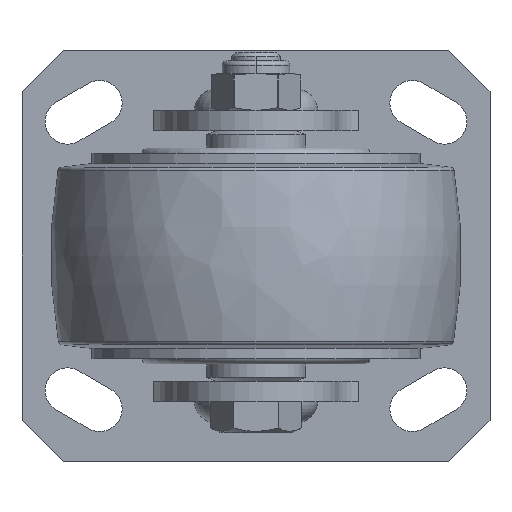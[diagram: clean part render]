
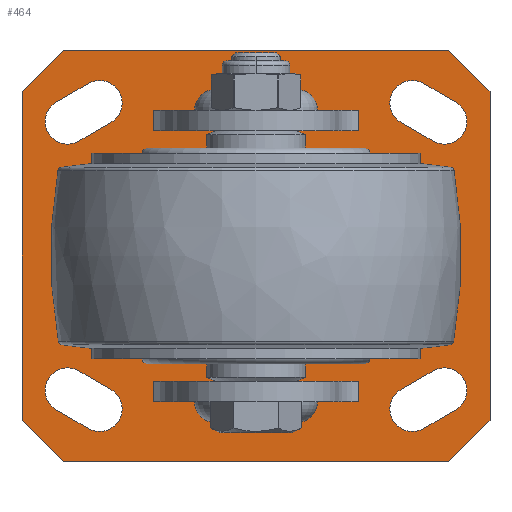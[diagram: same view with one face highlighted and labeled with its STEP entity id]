
A CAD part, front view. The second image highlights one B-rep face of the part: STEP entity #464.
In plain terms, the highlighted planar face has unit normal (0, -1, 0).
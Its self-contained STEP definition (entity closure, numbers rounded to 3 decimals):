
#1=DIRECTION('',(0.866,0.,-0.5));
#2=VECTOR('',#1,9.);
#3=CARTESIAN_POINT('',(-48.647,0.,-37.513));
#4=LINE('',#3,#2);
#5=CARTESIAN_POINT('',(-38.103,0.,-37.25));
#6=DIRECTION('',(0.,-1.,0.));
#7=DIRECTION('',(-0.5,0.,-0.866));
#8=AXIS2_PLACEMENT_3D('',#5,#6,#7);
#10=DIRECTION('',(-0.866,0.,0.5));
#11=VECTOR('',#10,9.);
#12=CARTESIAN_POINT('',(-35.353,0.,-32.487));
#13=LINE('',#12,#11);
#14=CARTESIAN_POINT('',(-45.897,0.,-32.75));
#15=DIRECTION('',(0.,-1.,0.));
#16=DIRECTION('',(0.5,0.,0.866));
#17=AXIS2_PLACEMENT_3D('',#14,#15,#16);
#19=CARTESIAN_POINT('',(45.897,0.,-32.75));
#20=DIRECTION('',(0.,-1.,0.));
#21=DIRECTION('',(0.5,0.,-0.866));
#22=AXIS2_PLACEMENT_3D('',#19,#20,#21);
#24=DIRECTION('',(-0.866,0.,-0.5));
#25=VECTOR('',#24,9.);
#26=CARTESIAN_POINT('',(43.147,0.,-27.987));
#27=LINE('',#26,#25);
#28=CARTESIAN_POINT('',(38.103,0.,-37.25));
#29=DIRECTION('',(0.,-1.,0.));
#30=DIRECTION('',(-0.5,0.,0.866));
#31=AXIS2_PLACEMENT_3D('',#28,#29,#30);
#33=DIRECTION('',(0.866,0.,0.5));
#34=VECTOR('',#33,9.);
#35=CARTESIAN_POINT('',(40.853,0.,-42.013));
#36=LINE('',#35,#34);
#37=CARTESIAN_POINT('',(-45.897,0.,32.75));
#38=DIRECTION('',(0.,-1.,0.));
#39=DIRECTION('',(-0.5,0.,0.866));
#40=AXIS2_PLACEMENT_3D('',#37,#38,#39);
#42=DIRECTION('',(0.866,0.,0.5));
#43=VECTOR('',#42,9.);
#44=CARTESIAN_POINT('',(-43.147,0.,27.987));
#45=LINE('',#44,#43);
#46=CARTESIAN_POINT('',(-38.103,0.,37.25));
#47=DIRECTION('',(0.,-1.,0.));
#48=DIRECTION('',(0.5,0.,-0.866));
#49=AXIS2_PLACEMENT_3D('',#46,#47,#48);
#51=DIRECTION('',(-0.866,0.,-0.5));
#52=VECTOR('',#51,9.);
#53=CARTESIAN_POINT('',(-40.853,0.,42.013));
#54=LINE('',#53,#52);
#55=DIRECTION('',(-0.866,0.,0.5));
#56=VECTOR('',#55,9.);
#57=CARTESIAN_POINT('',(48.647,0.,37.513));
#58=LINE('',#57,#56);
#59=CARTESIAN_POINT('',(38.103,0.,37.25));
#60=DIRECTION('',(0.,-1.,0.));
#61=DIRECTION('',(0.5,0.,0.866));
#62=AXIS2_PLACEMENT_3D('',#59,#60,#61);
#64=DIRECTION('',(0.866,0.,-0.5));
#65=VECTOR('',#64,9.);
#66=CARTESIAN_POINT('',(35.353,0.,32.487));
#67=LINE('',#66,#65);
#68=CARTESIAN_POINT('',(45.897,0.,32.75));
#69=DIRECTION('',(0.,-1.,0.));
#70=DIRECTION('',(-0.5,0.,-0.866));
#71=AXIS2_PLACEMENT_3D('',#68,#69,#70);
#73=DIRECTION('',(-0.707,0.,0.707));
#74=VECTOR('',#73,14.142);
#75=CARTESIAN_POINT('',(57.,0.,40.));
#76=LINE('',#75,#74);
#77=DIRECTION('',(0.,0.,-1.));
#78=VECTOR('',#77,80.);
#79=CARTESIAN_POINT('',(57.,0.,40.));
#80=LINE('',#79,#78);
#81=DIRECTION('',(0.707,0.,0.707));
#82=VECTOR('',#81,14.142);
#83=CARTESIAN_POINT('',(47.,0.,-50.));
#84=LINE('',#83,#82);
#85=DIRECTION('',(-1.,0.,0.));
#86=VECTOR('',#85,94.);
#87=CARTESIAN_POINT('',(47.,0.,-50.));
#88=LINE('',#87,#86);
#89=DIRECTION('',(0.707,0.,-0.707));
#90=VECTOR('',#89,14.142);
#91=CARTESIAN_POINT('',(-57.,0.,-40.));
#92=LINE('',#91,#90);
#93=DIRECTION('',(0.,0.,1.));
#94=VECTOR('',#93,80.);
#95=CARTESIAN_POINT('',(-57.,0.,-40.));
#96=LINE('',#95,#94);
#97=DIRECTION('',(-0.707,0.,-0.707));
#98=VECTOR('',#97,14.142);
#99=CARTESIAN_POINT('',(-47.,0.,50.));
#100=LINE('',#99,#98);
#101=DIRECTION('',(1.,0.,0.));
#102=VECTOR('',#101,94.);
#103=CARTESIAN_POINT('',(-47.,0.,50.));
#104=LINE('',#103,#102);
#305=CARTESIAN_POINT('',(-48.647,0.,-37.513));
#306=CARTESIAN_POINT('',(-40.853,0.,-42.013));
#307=VERTEX_POINT('',#305);
#308=VERTEX_POINT('',#306);
#309=CARTESIAN_POINT('',(-35.353,0.,-32.487));
#310=VERTEX_POINT('',#309);
#311=CARTESIAN_POINT('',(-43.147,0.,-27.987));
#312=VERTEX_POINT('',#311);
#313=CARTESIAN_POINT('',(48.647,0.,-37.513));
#314=CARTESIAN_POINT('',(43.147,0.,-27.987));
#315=VERTEX_POINT('',#313);
#316=VERTEX_POINT('',#314);
#317=CARTESIAN_POINT('',(35.353,0.,-32.487));
#318=VERTEX_POINT('',#317);
#319=CARTESIAN_POINT('',(40.853,0.,-42.013));
#320=VERTEX_POINT('',#319);
#321=CARTESIAN_POINT('',(-48.647,0.,37.513));
#322=CARTESIAN_POINT('',(-43.147,0.,27.987));
#323=VERTEX_POINT('',#321);
#324=VERTEX_POINT('',#322);
#325=CARTESIAN_POINT('',(-35.353,0.,32.487));
#326=VERTEX_POINT('',#325);
#327=CARTESIAN_POINT('',(-40.853,0.,42.013));
#328=VERTEX_POINT('',#327);
#329=CARTESIAN_POINT('',(48.647,0.,37.513));
#330=CARTESIAN_POINT('',(40.853,0.,42.013));
#331=VERTEX_POINT('',#329);
#332=VERTEX_POINT('',#330);
#333=CARTESIAN_POINT('',(35.353,0.,32.487));
#334=VERTEX_POINT('',#333);
#335=CARTESIAN_POINT('',(43.147,0.,27.987));
#336=VERTEX_POINT('',#335);
#369=CARTESIAN_POINT('',(57.,0.,40.));
#370=CARTESIAN_POINT('',(47.,0.,50.));
#371=VERTEX_POINT('',#369);
#372=VERTEX_POINT('',#370);
#377=CARTESIAN_POINT('',(-47.,0.,50.));
#378=CARTESIAN_POINT('',(-57.,0.,40.));
#379=VERTEX_POINT('',#377);
#380=VERTEX_POINT('',#378);
#385=CARTESIAN_POINT('',(47.,0.,-50.));
#386=CARTESIAN_POINT('',(57.,0.,-40.));
#387=VERTEX_POINT('',#385);
#388=VERTEX_POINT('',#386);
#393=CARTESIAN_POINT('',(-57.,0.,-40.));
#394=CARTESIAN_POINT('',(-47.,0.,-50.));
#395=VERTEX_POINT('',#393);
#396=VERTEX_POINT('',#394);
#401=CARTESIAN_POINT('',(0.,0.,0.));
#402=DIRECTION('',(0.,1.,0.));
#403=DIRECTION('',(1.,0.,0.));
#404=AXIS2_PLACEMENT_3D('',#401,#402,#403);
#405=PLANE('',#404);
#407=ORIENTED_EDGE('',*,*,#406,.F.);
#409=ORIENTED_EDGE('',*,*,#408,.T.);
#411=ORIENTED_EDGE('',*,*,#410,.F.);
#413=ORIENTED_EDGE('',*,*,#412,.T.);
#415=ORIENTED_EDGE('',*,*,#414,.F.);
#417=ORIENTED_EDGE('',*,*,#416,.T.);
#419=ORIENTED_EDGE('',*,*,#418,.F.);
#421=ORIENTED_EDGE('',*,*,#420,.T.);
#422=EDGE_LOOP('',(#407,#409,#411,#413,#415,#417,#419,#421));
#423=FACE_OUTER_BOUND('',#422,.F.);
#425=ORIENTED_EDGE('',*,*,#424,.T.);
#427=ORIENTED_EDGE('',*,*,#426,.T.);
#429=ORIENTED_EDGE('',*,*,#428,.T.);
#431=ORIENTED_EDGE('',*,*,#430,.T.);
#432=EDGE_LOOP('',(#425,#427,#429,#431));
#433=FACE_BOUND('',#432,.F.);
#435=ORIENTED_EDGE('',*,*,#434,.T.);
#437=ORIENTED_EDGE('',*,*,#436,.T.);
#439=ORIENTED_EDGE('',*,*,#438,.T.);
#441=ORIENTED_EDGE('',*,*,#440,.T.);
#442=EDGE_LOOP('',(#435,#437,#439,#441));
#443=FACE_BOUND('',#442,.F.);
#445=ORIENTED_EDGE('',*,*,#444,.T.);
#447=ORIENTED_EDGE('',*,*,#446,.T.);
#449=ORIENTED_EDGE('',*,*,#448,.T.);
#451=ORIENTED_EDGE('',*,*,#450,.T.);
#452=EDGE_LOOP('',(#445,#447,#449,#451));
#453=FACE_BOUND('',#452,.F.);
#455=ORIENTED_EDGE('',*,*,#454,.T.);
#457=ORIENTED_EDGE('',*,*,#456,.T.);
#459=ORIENTED_EDGE('',*,*,#458,.T.);
#461=ORIENTED_EDGE('',*,*,#460,.T.);
#462=EDGE_LOOP('',(#455,#457,#459,#461));
#463=FACE_BOUND('',#462,.F.);
#9=CIRCLE('',#8,5.5);
#18=CIRCLE('',#17,5.5);
#23=CIRCLE('',#22,5.5);
#32=CIRCLE('',#31,5.5);
#41=CIRCLE('',#40,5.5);
#50=CIRCLE('',#49,5.5);
#63=CIRCLE('',#62,5.5);
#72=CIRCLE('',#71,5.5);
#406=EDGE_CURVE('',#371,#372,#76,.T.);
#408=EDGE_CURVE('',#371,#388,#80,.T.);
#410=EDGE_CURVE('',#387,#388,#84,.T.);
#412=EDGE_CURVE('',#387,#396,#88,.T.);
#414=EDGE_CURVE('',#395,#396,#92,.T.);
#416=EDGE_CURVE('',#395,#380,#96,.T.);
#418=EDGE_CURVE('',#379,#380,#100,.T.);
#420=EDGE_CURVE('',#379,#372,#104,.T.);
#424=EDGE_CURVE('',#315,#316,#23,.T.);
#426=EDGE_CURVE('',#316,#318,#27,.T.);
#428=EDGE_CURVE('',#318,#320,#32,.T.);
#430=EDGE_CURVE('',#320,#315,#36,.T.);
#434=EDGE_CURVE('',#323,#324,#41,.T.);
#436=EDGE_CURVE('',#324,#326,#45,.T.);
#438=EDGE_CURVE('',#326,#328,#50,.T.);
#440=EDGE_CURVE('',#328,#323,#54,.T.);
#444=EDGE_CURVE('',#331,#332,#58,.T.);
#446=EDGE_CURVE('',#332,#334,#63,.T.);
#448=EDGE_CURVE('',#334,#336,#67,.T.);
#450=EDGE_CURVE('',#336,#331,#72,.T.);
#454=EDGE_CURVE('',#307,#308,#4,.T.);
#456=EDGE_CURVE('',#308,#310,#9,.T.);
#458=EDGE_CURVE('',#310,#312,#13,.T.);
#460=EDGE_CURVE('',#312,#307,#18,.T.);
#464=ADVANCED_FACE('',(#423,#433,#443,#453,#463),#405,.F.);
